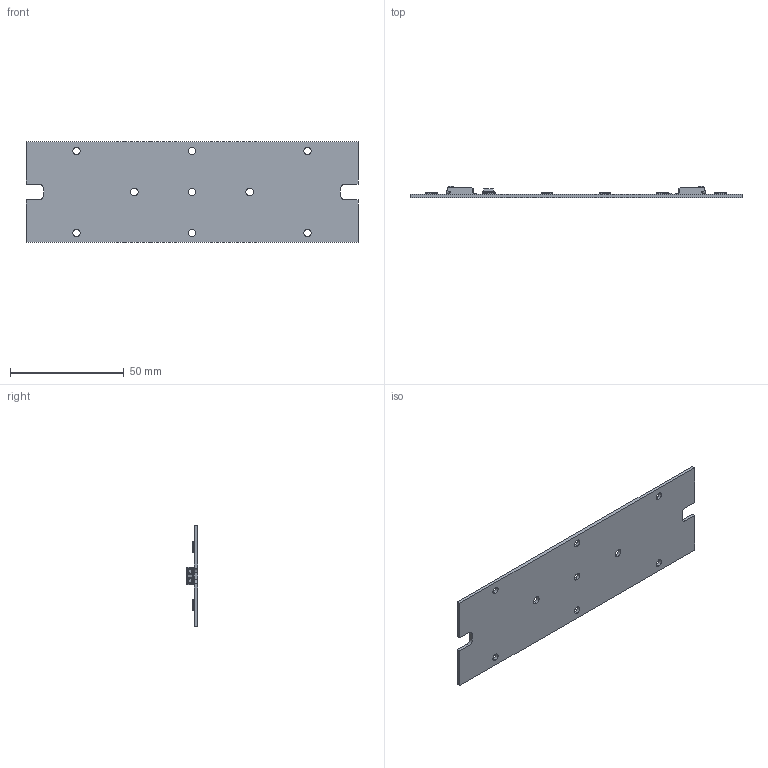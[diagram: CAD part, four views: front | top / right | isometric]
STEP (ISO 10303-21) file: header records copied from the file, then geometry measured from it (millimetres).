
FILE_DESCRIPTION (( 'STEP AP214' ), '1' );
FILE_NAME ('PCB WU-M-631.STEP', '2019-10-28T12:50:29', ( '' ), ( '' ), 'SwSTEP 2.0', 'SolidWorks 2017', '' );
FILE_SCHEMA (( 'AUTOMOTIVE_DESIGN' ));
Length unit declared in the file: millimetre
Products named in the file (6): PCB WU-M-631; R0603; MCC-SMD-2P; LH508B; DO214AC
Assembly tree (17 placements, depth 2):
  PCB WU-M-631
    PCB WU-M-631
    LH508B  x12
    DO214AC
    R0603
    MCC-SMD-2P  x2
Bounding box: 146 x 4.95 x 44.4 mm (x, y, z)
Volume: 10187 mm3; surface area: 16032.8 mm2
Topology: 41 solids, 41 shells, 5324 faces, 15160 edges, 9972 vertices
Faces by surface type: plane 3466, bspline 982, cylinder 568, cone 304, torus 4
Entity records: 134152 total; most frequent: CARTESIAN_POINT 52588, ORIENTED_EDGE 14020, DIRECTION 8886, EDGE_CURVE 7010, VECTOR 4658, LINE 4658, VERTEX_POINT 4603, EDGE_LOOP 2793
